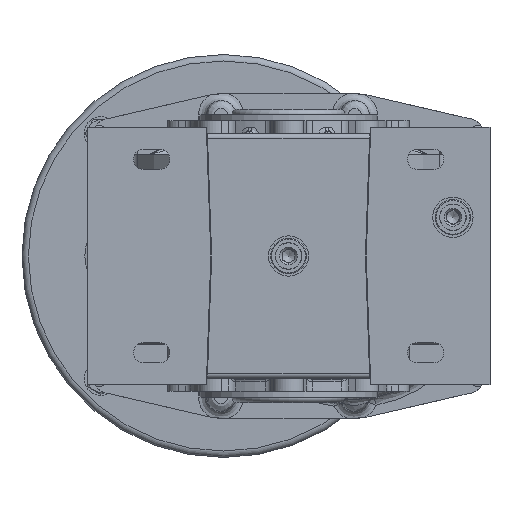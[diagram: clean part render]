
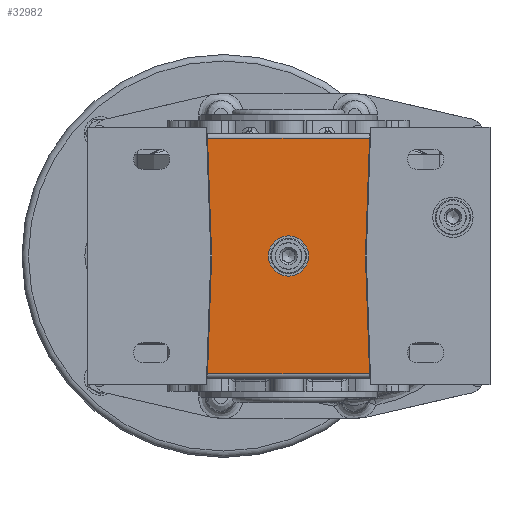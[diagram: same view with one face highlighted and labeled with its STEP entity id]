
A CAD part, left-side view. The second image highlights one B-rep face of the part: STEP entity #32982.
In plain terms, the highlighted planar face has unit normal (-1, 0, 0).
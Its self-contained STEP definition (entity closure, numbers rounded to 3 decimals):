
#31908=CARTESIAN_POINT('',(-121.,50.255,-73.0));
#31909=VERTEX_POINT('',#31908);
#31936=CARTESIAN_POINT('',(-121.,47.706,0.));
#31937=VERTEX_POINT('',#31936);
#31938=CARTESIAN_POINT('',(-121.,50.255,-73.0));
#31939=DIRECTION('',(0.0,-0.035,0.999));
#31940=VECTOR('',#31939,73.044);
#31941=LINE('',#31938,#31940);
#31942=EDGE_CURVE('',#31909,#31937,#31941,.T.);
#31959=CARTESIAN_POINT('',(-121.,50.255,73.0));
#31960=VERTEX_POINT('',#31959);
#31977=CARTESIAN_POINT('',(-121.,47.706,0.));
#31978=DIRECTION('',(0.0,0.035,0.999));
#31979=VECTOR('',#31978,73.044);
#31980=LINE('',#31977,#31979);
#31981=EDGE_CURVE('',#31937,#31960,#31980,.T.);
#32920=CARTESIAN_POINT('',(-121.,-50.255,73.));
#32921=VERTEX_POINT('',#32920);
#32922=CARTESIAN_POINT('',(-121.,50.255,73.0));
#32923=DIRECTION('',(0.0,-1.0,0.0));
#32924=VECTOR('',#32923,100.51);
#32925=LINE('',#32922,#32924);
#32926=EDGE_CURVE('',#31960,#32921,#32925,.T.);
#32939=CARTESIAN_POINT('',(-121.,0.,0.));
#32940=DIRECTION('',(-1.0,0.0,0.0));
#32941=DIRECTION('',(0.0,0.0,1.0));
#32942=AXIS2_PLACEMENT_3D('',#32939,#32940,#32941);
#32943=PLANE('',#32942);
#32944=ORIENTED_EDGE('',*,*,#31981,.F.);
#32945=ORIENTED_EDGE('',*,*,#31942,.F.);
#32946=CARTESIAN_POINT('',(-121.,-50.255,-73.));
#32947=VERTEX_POINT('',#32946);
#32948=CARTESIAN_POINT('',(-121.,-50.255,-73.));
#32949=DIRECTION('',(0.0,1.0,0.0));
#32950=VECTOR('',#32949,100.51);
#32951=LINE('',#32948,#32950);
#32952=EDGE_CURVE('',#32947,#31909,#32951,.T.);
#32953=ORIENTED_EDGE('',*,*,#32952,.F.);
#32954=CARTESIAN_POINT('',(-121.,-47.706,0.));
#32955=VERTEX_POINT('',#32954);
#32956=CARTESIAN_POINT('',(-121.,-47.706,0.));
#32957=DIRECTION('',(0.0,-0.035,-0.999));
#32958=VECTOR('',#32957,73.044);
#32959=LINE('',#32956,#32958);
#32960=EDGE_CURVE('',#32955,#32947,#32959,.T.);
#32961=ORIENTED_EDGE('',*,*,#32960,.F.);
#32962=CARTESIAN_POINT('',(-121.,-50.255,73.));
#32963=DIRECTION('',(0.0,0.035,-0.999));
#32964=VECTOR('',#32963,73.044);
#32965=LINE('',#32962,#32964);
#32966=EDGE_CURVE('',#32921,#32955,#32965,.T.);
#32967=ORIENTED_EDGE('',*,*,#32966,.F.);
#32968=ORIENTED_EDGE('',*,*,#32926,.F.);
#32969=EDGE_LOOP('',(#32944,#32945,#32953,#32961,#32967,#32968));
#32970=FACE_OUTER_BOUND('',#32969,.T.);
#32971=CARTESIAN_POINT('',(-121.,0.,12.5));
#32972=VERTEX_POINT('',#32971);
#32973=CARTESIAN_POINT('',(-121.,0.,0.0));
#32974=DIRECTION('',(1.0,0.0,0.0));
#32975=DIRECTION('',(0.0,0.0,1.0));
#32976=AXIS2_PLACEMENT_3D('',#32973,#32974,#32975);
#32977=CIRCLE('',#32976,12.5);
#32978=EDGE_CURVE('',#32972,#32972,#32977,.T.);
#32979=ORIENTED_EDGE('',*,*,#32978,.T.);
#32980=EDGE_LOOP('',(#32979));
#32981=FACE_BOUND('',#32980,.T.);
#32982=ADVANCED_FACE('',(#32970,#32981),#32943,.T.);
